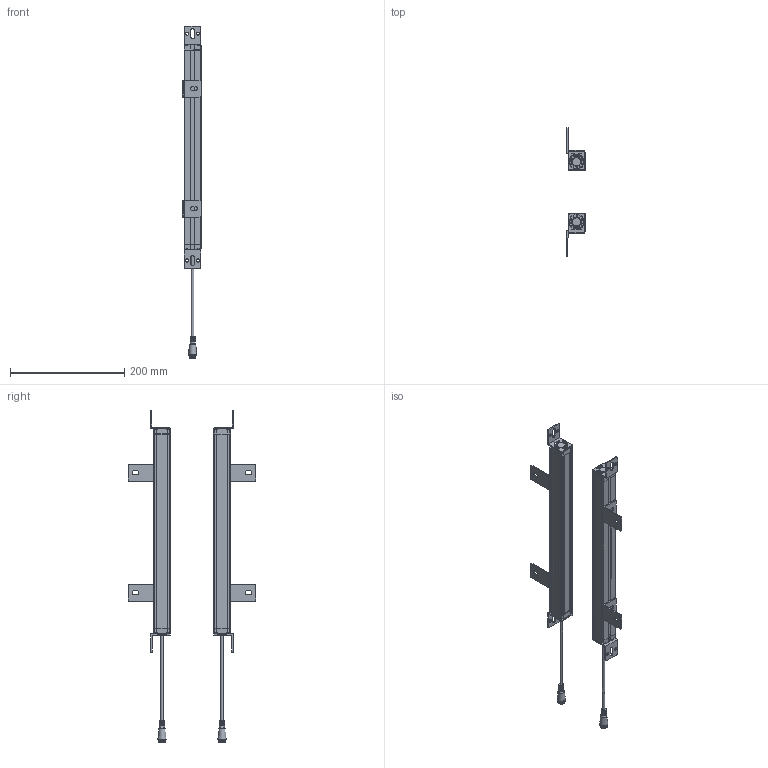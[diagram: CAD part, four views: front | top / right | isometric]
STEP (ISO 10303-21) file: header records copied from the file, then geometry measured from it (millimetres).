
FILE_DESCRIPTION(/* description */ (''),/* implementation_level */ '2;1');
FILE_NAME(/* name */ '3410（29x30）.stp',/* time_stamp */ '2023-04-28T15:35:51+08:00',/* author */ (''),/* organization */ (''),/* preprocessor_version */ 'ST-DEVELOPER v16.7',/* originating_system */ 'SIEMENS PLM Software NX 12.0',/* authorisation */ '');
FILE_SCHEMA (('AUTOMOTIVE_DESIGN { 1 0 10303 214 3 1 1 1 }'));
Products named in the file (1): 7220（29x30）_stp
Bounding box: 32.03 x 223.99 x 581 mm (x, y, z)
Volume: 255670.7 mm3; surface area: 267498.3 mm2
Topology: 34 solids, 34 shells, 1610 faces, 4267 edges, 2771 vertices
Faces by surface type: plane 750, cylinder 648, bspline 88, sphere 36, cone 36, torus 32, extrusion 20
Full cylindrical faces by diameter (mm): 1.533 x6, 4.4 x4, 9 x2, 12.5 x2
Entity records: 56427 total; most frequent: CARTESIAN_POINT 16064, DIRECTION 8330, ORIENTED_EDGE 8324, EDGE_CURVE 4162, AXIS2_PLACEMENT_3D 2918, VERTEX_POINT 2696, VECTOR 2494, LINE 2474
